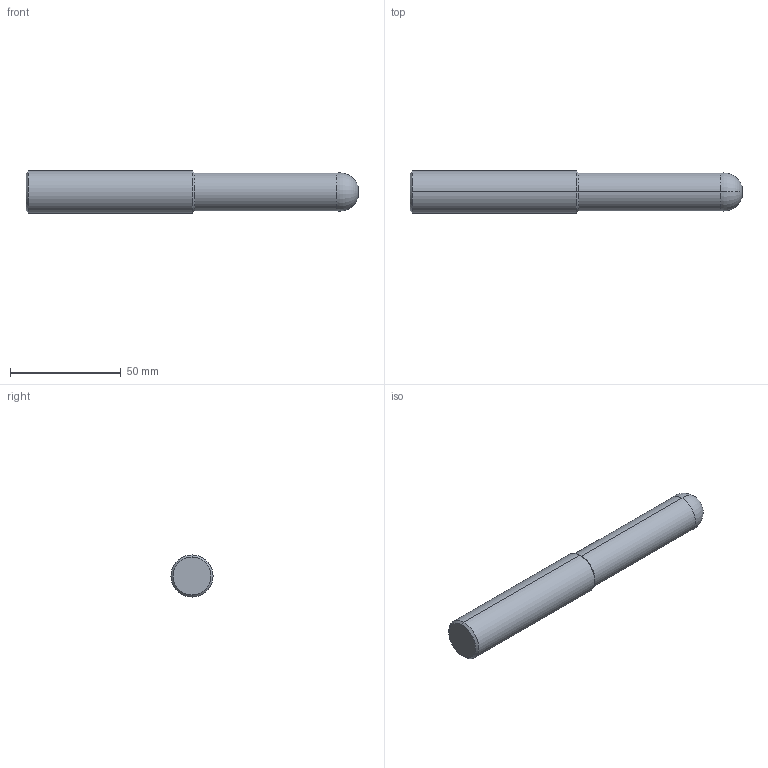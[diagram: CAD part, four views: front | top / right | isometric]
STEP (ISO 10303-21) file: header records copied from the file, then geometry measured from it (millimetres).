
FILE_DESCRIPTION (( 'STEP AP214' ), '1' );
FILE_NAME ('01-0228.STEP', '2021-02-10T00:24:32', ( 'USER' ), ( '' ), 'SwSTEP 2.0', 'SolidWorks 2018', '' );
FILE_SCHEMA (( 'AUTOMOTIVE_DESIGN' ));
Length unit declared in the file: millimetre
Products named in the file (2): 01-0228
Bounding box: 150 x 19.05 x 19.05 mm (x, y, z)
Volume: 38022.2 mm3; surface area: 8815.6 mm2
Topology: 1 solids, 1 shells, 12 faces, 22 edges, 12 vertices
Faces by surface type: cone 4, cylinder 4, torus 2, plane 2
Entity records: 345 total; most frequent: DIRECTION 64, CARTESIAN_POINT 48, ORIENTED_EDGE 44, AXIS2_PLACEMENT_3D 28, EDGE_CURVE 22, CIRCLE 14, ADVANCED_FACE 12, VERTEX_POINT 12
